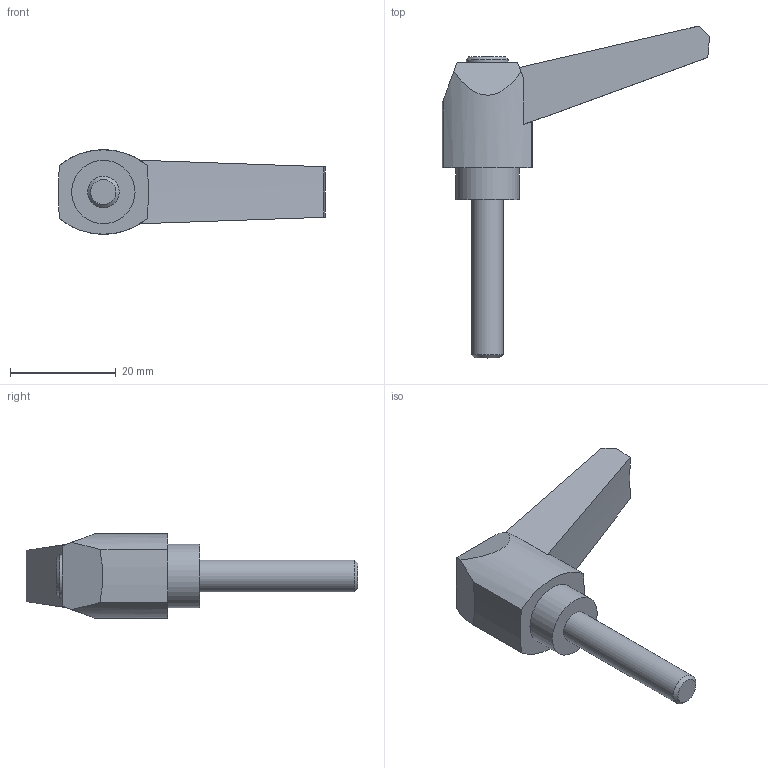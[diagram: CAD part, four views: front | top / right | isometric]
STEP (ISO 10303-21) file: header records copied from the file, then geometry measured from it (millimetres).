
FILE_DESCRIPTION( ( 'STEP AP203' ), '1' );
FILE_NAME( 'C:/Temp/Ganter_Step_05_03_2020/data/2_1/gn_500/gn_500_ms/Adjustable hand lever GN 500-42-M6-30-SW.stp', '2020-03-05T11:26:32', ( 'License CC BY-ND 4.0' ), ( 'CADENAS' ), ' ', 'PARTsolutions', ' ' );
FILE_SCHEMA( ( 'CONFIG_CONTROL_DESIGN' ) );
Length unit declared in the file: millimetre
Products named in the file (1): _Adjustable hand lever GN 500-42-M6-30-SW
Bounding box: 50.59 x 62.85 x 16 mm (x, y, z)
Volume: 9162.8 mm3; surface area: 3578.1 mm2
Topology: 1 solids, 1 shells, 24 faces, 56 edges, 37 vertices
Faces by surface type: plane 11, cylinder 7, cone 6
Full cylindrical faces by diameter (mm): 6 x1, 8 x1, 12 x1
Entity records: 708 total; most frequent: CARTESIAN_POINT 123, DIRECTION 118, ORIENTED_EDGE 100, EDGE_CURVE 50, AXIS2_PLACEMENT_3D 47, VERTEX_POINT 36, EDGE_LOOP 32, FACE_OUTER_BOUND 27
